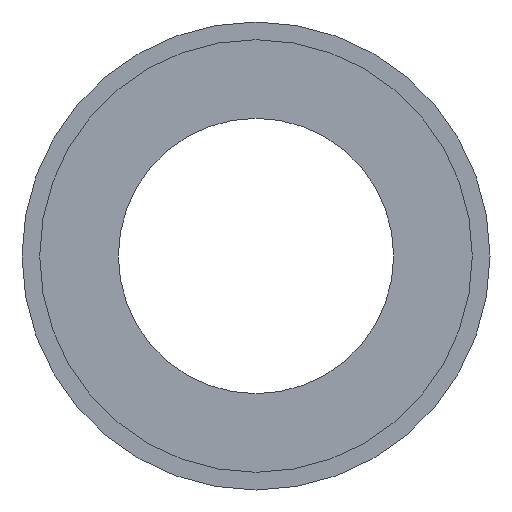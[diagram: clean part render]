
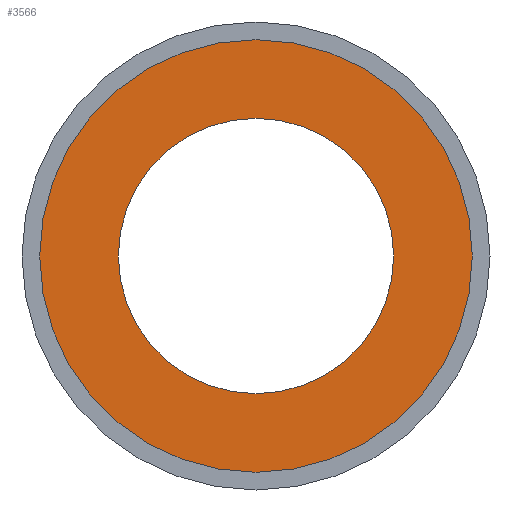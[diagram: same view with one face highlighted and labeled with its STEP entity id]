
A CAD part, front view. The second image highlights one B-rep face of the part: STEP entity #3566.
In plain terms, the highlighted planar face has unit normal (0, -1, 0).
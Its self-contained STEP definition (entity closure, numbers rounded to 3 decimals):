
#29 = ORIENTED_EDGE ( 'NONE', *, *, #2622, .T. ) ;
#42 = ORIENTED_EDGE ( 'NONE', *, *, #3255, .T. ) ;
#85 = AXIS2_PLACEMENT_3D ( 'NONE', #839, #3148, #894 ) ;
#162 = CARTESIAN_POINT ( 'NONE',  ( 0., -20., 0. ) ) ;
#358 = AXIS2_PLACEMENT_3D ( 'NONE', #1216, #2095, #965 ) ;
#375 = AXIS2_PLACEMENT_3D ( 'NONE', #162, #1286, #1572 ) ;
#646 = DIRECTION ( 'NONE',  ( 0., 0., -1. ) ) ;
#659 = DIRECTION ( 'NONE',  ( 0., -1., 0. ) ) ;
#691 = AXIS2_PLACEMENT_3D ( 'NONE', #1631, #1372, #1942 ) ;
#839 = CARTESIAN_POINT ( 'NONE',  ( 0., -20., 0. ) ) ;
#894 = DIRECTION ( 'NONE',  ( 0., 0., -1. ) ) ;
#897 = EDGE_LOOP ( 'NONE', ( #42, #29 ) ) ;
#907 = CIRCLE ( 'NONE', #1559, 55. ) ;
#958 = VERTEX_POINT ( 'NONE', #3126 ) ;
#965 = DIRECTION ( 'NONE',  ( 0., 0., -1. ) ) ;
#967 = EDGE_CURVE ( 'NONE', #958, #1875, #2698, .T. ) ;
#987 = FACE_BOUND ( 'NONE', #2397, .T. ) ;
#1216 = CARTESIAN_POINT ( 'NONE',  ( 0., -20., 0. ) ) ;
#1286 = DIRECTION ( 'NONE',  ( 0., -1., 0. ) ) ;
#1372 = DIRECTION ( 'NONE',  ( 0., 1., 0. ) ) ;
#1559 = AXIS2_PLACEMENT_3D ( 'NONE', #2372, #659, #646 ) ;
#1572 = DIRECTION ( 'NONE',  ( 0., 0., -1. ) ) ;
#1576 = CIRCLE ( 'NONE', #358, 55. ) ;
#1631 = CARTESIAN_POINT ( 'NONE',  ( 0., -20., 35. ) ) ;
#1875 = VERTEX_POINT ( 'NONE', #2204 ) ;
#1942 = DIRECTION ( 'NONE',  ( 0., 0., 1. ) ) ;
#1951 = CIRCLE ( 'NONE', #375, 35. ) ;
#2095 = DIRECTION ( 'NONE',  ( 0., -1., 0. ) ) ;
#2195 = VERTEX_POINT ( 'NONE', #3288 ) ;
#2204 = CARTESIAN_POINT ( 'NONE',  ( 0., -20., 35. ) ) ;
#2372 = CARTESIAN_POINT ( 'NONE',  ( 0., -20., 0. ) ) ;
#2397 = EDGE_LOOP ( 'NONE', ( #3271, #3597 ) ) ;
#2622 = EDGE_CURVE ( 'NONE', #2705, #2195, #907, .T. ) ;
#2674 = CARTESIAN_POINT ( 'NONE',  ( 0., -20., 55. ) ) ;
#2698 = CIRCLE ( 'NONE', #85, 35. ) ;
#2705 = VERTEX_POINT ( 'NONE', #2674 ) ;
#2796 = EDGE_CURVE ( 'NONE', #1875, #958, #1951, .T. ) ;
#3126 = CARTESIAN_POINT ( 'NONE',  ( 0., -20., -35. ) ) ;
#3148 = DIRECTION ( 'NONE',  ( 0., -1., 0. ) ) ;
#3255 = EDGE_CURVE ( 'NONE', #2195, #2705, #1576, .T. ) ;
#3271 = ORIENTED_EDGE ( 'NONE', *, *, #967, .F. ) ;
#3288 = CARTESIAN_POINT ( 'NONE',  ( 0., -20., -55. ) ) ;
#3566 = ADVANCED_FACE ( 'NONE', ( #987, #3690 ), #3672, .F. ) ;
#3597 = ORIENTED_EDGE ( 'NONE', *, *, #2796, .F. ) ;
#3672 = PLANE ( 'NONE',  #691 ) ;
#3690 = FACE_OUTER_BOUND ( 'NONE', #897, .T. ) ;
